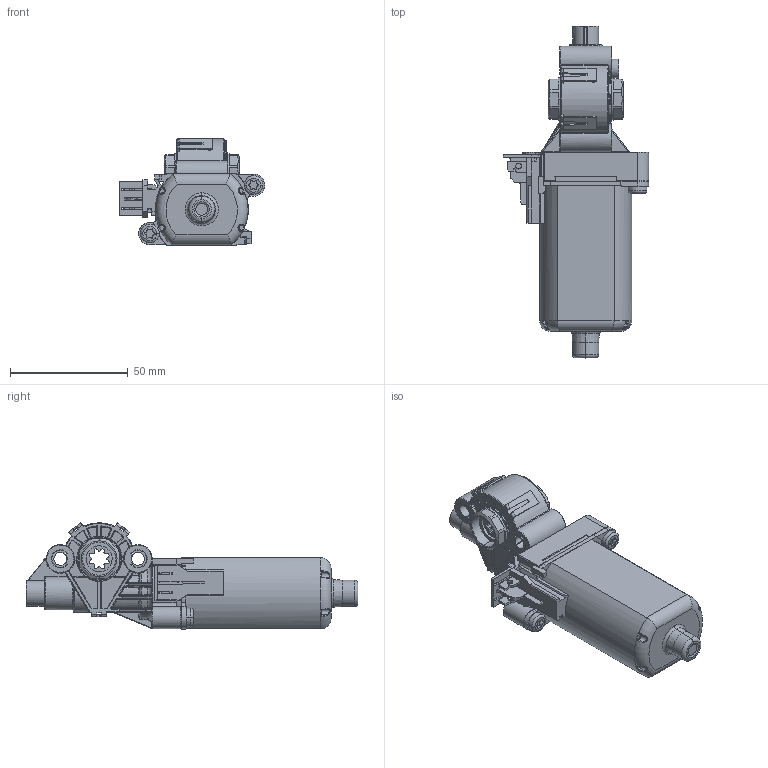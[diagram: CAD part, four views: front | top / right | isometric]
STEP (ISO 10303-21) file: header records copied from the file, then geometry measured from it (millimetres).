
FILE_DESCRIPTION((''),'2;1');
FILE_NAME('0390201900_SW0004','2014-07-31T',('ma73kor'),(''),'PRO/ENGINEER BY PARAMETRIC TECHNOLOGY CORPORATION, 2010140','PRO/ENGINEER BY PARAMETRIC TECHNOLOGY CORPORATION, 2010140','');
FILE_SCHEMA(('CONFIG_CONTROL_DESIGN'));
Products named in the file (1): 0390201900_SW0004
Bounding box: 61.74 x 141.1 x 45.25 mm (x, y, z)
Volume: 114020.9 mm3; surface area: 25613.5 mm2
Topology: 1 solids, 2 shells, 1742 faces, 4238 edges, 2485 vertices
Faces by surface type: cylinder 631, plane 420, bspline 316, torus 281, sphere 86, cone 8
Entity records: 67890 total; most frequent: CARTESIAN_POINT 28451, ORIENTED_EDGE 8474, DIRECTION 8289, EDGE_CURVE 4237, AXIS2_PLACEMENT_3D 3331, VERTEX_POINT 2485, CIRCLE 1905, EDGE_LOOP 1770
